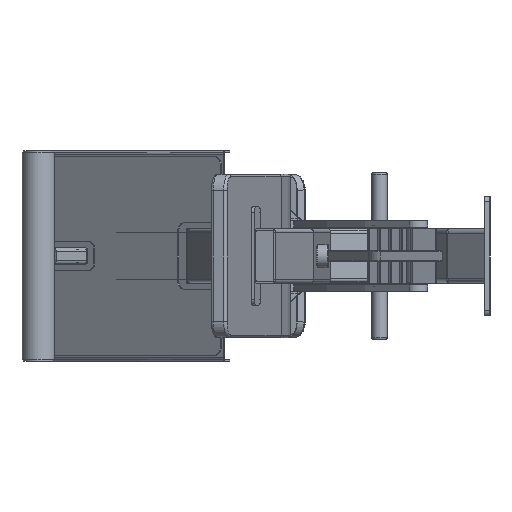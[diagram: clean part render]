
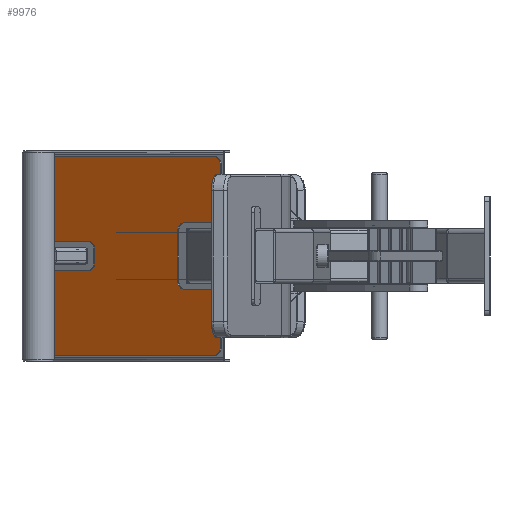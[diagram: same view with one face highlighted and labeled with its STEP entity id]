
A CAD part, left-side view. The second image highlights one B-rep face of the part: STEP entity #9976.
In plain terms, the highlighted planar face has unit normal (-0.777, 0.63, 0).
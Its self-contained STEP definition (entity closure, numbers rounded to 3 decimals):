
#640=PLANE('',#11069);
#1215=FACE_OUTER_BOUND('',#1859,.T.);
#1859=EDGE_LOOP('',(#8959,#8960,#8961,#8962,#8963,#8964,#8965,#8966,#8967,
#8968,#8969,#8970,#8971,#8972,#8973,#8974,#8975,#8976,#8977,#8978,#8979,
#8980,#8981,#8982));
#2730=LINE('',#18750,#3611);
#2731=LINE('',#18754,#3612);
#2732=LINE('',#18758,#3613);
#2733=LINE('',#18762,#3614);
#2734=LINE('',#18766,#3615);
#2735=LINE('',#18770,#3616);
#2736=LINE('',#18774,#3617);
#2737=LINE('',#18778,#3618);
#2738=LINE('',#18782,#3619);
#2739=LINE('',#18786,#3620);
#2740=LINE('',#18790,#3621);
#2741=LINE('',#18794,#3622);
#3611=VECTOR('',#13978,1000.);
#3612=VECTOR('',#13981,1000.);
#3613=VECTOR('',#13984,1000.);
#3614=VECTOR('',#13987,1000.);
#3615=VECTOR('',#13990,1000.);
#3616=VECTOR('',#13993,1000.);
#3617=VECTOR('',#13996,1000.);
#3618=VECTOR('',#13999,1000.);
#3619=VECTOR('',#14002,1000.);
#3620=VECTOR('',#14005,1000.);
#3621=VECTOR('',#14008,1000.);
#3622=VECTOR('',#14011,1000.);
#3995=CIRCLE('',#11070,15.);
#3996=CIRCLE('',#11071,15.);
#3997=CIRCLE('',#11072,15.);
#3998=CIRCLE('',#11073,15.);
#3999=CIRCLE('',#11074,15.);
#4000=CIRCLE('',#11075,15.);
#4001=CIRCLE('',#11076,15.);
#4002=CIRCLE('',#11077,15.);
#4003=CIRCLE('',#11078,15.);
#4004=CIRCLE('',#11079,15.);
#4005=CIRCLE('',#11080,15.);
#4006=CIRCLE('',#11081,15.);
#4863=VERTEX_POINT('',#18748);
#4864=VERTEX_POINT('',#18749);
#4865=VERTEX_POINT('',#18751);
#4866=VERTEX_POINT('',#18753);
#4867=VERTEX_POINT('',#18755);
#4868=VERTEX_POINT('',#18757);
#4869=VERTEX_POINT('',#18759);
#4870=VERTEX_POINT('',#18761);
#4871=VERTEX_POINT('',#18763);
#4872=VERTEX_POINT('',#18765);
#4873=VERTEX_POINT('',#18767);
#4874=VERTEX_POINT('',#18769);
#4875=VERTEX_POINT('',#18771);
#4876=VERTEX_POINT('',#18773);
#4877=VERTEX_POINT('',#18775);
#4878=VERTEX_POINT('',#18777);
#4879=VERTEX_POINT('',#18779);
#4880=VERTEX_POINT('',#18781);
#4881=VERTEX_POINT('',#18783);
#4882=VERTEX_POINT('',#18785);
#4883=VERTEX_POINT('',#18787);
#4884=VERTEX_POINT('',#18789);
#4885=VERTEX_POINT('',#18791);
#4886=VERTEX_POINT('',#18793);
#6241=EDGE_CURVE('',#4863,#4864,#2730,.T.);
#6242=EDGE_CURVE('',#4864,#4865,#3995,.T.);
#6243=EDGE_CURVE('',#4865,#4866,#2731,.T.);
#6244=EDGE_CURVE('',#4866,#4867,#3996,.T.);
#6245=EDGE_CURVE('',#4867,#4868,#2732,.T.);
#6246=EDGE_CURVE('',#4868,#4869,#3997,.T.);
#6247=EDGE_CURVE('',#4869,#4870,#2733,.T.);
#6248=EDGE_CURVE('',#4870,#4871,#3998,.T.);
#6249=EDGE_CURVE('',#4871,#4872,#2734,.T.);
#6250=EDGE_CURVE('',#4872,#4873,#3999,.T.);
#6251=EDGE_CURVE('',#4873,#4874,#2735,.T.);
#6252=EDGE_CURVE('',#4874,#4875,#4000,.T.);
#6253=EDGE_CURVE('',#4875,#4876,#2736,.T.);
#6254=EDGE_CURVE('',#4876,#4877,#4001,.T.);
#6255=EDGE_CURVE('',#4877,#4878,#2737,.T.);
#6256=EDGE_CURVE('',#4878,#4879,#4002,.T.);
#6257=EDGE_CURVE('',#4879,#4880,#2738,.T.);
#6258=EDGE_CURVE('',#4880,#4881,#4003,.T.);
#6259=EDGE_CURVE('',#4881,#4882,#2739,.T.);
#6260=EDGE_CURVE('',#4882,#4883,#4004,.T.);
#6261=EDGE_CURVE('',#4883,#4884,#2740,.T.);
#6262=EDGE_CURVE('',#4884,#4885,#4005,.T.);
#6263=EDGE_CURVE('',#4885,#4886,#2741,.T.);
#6264=EDGE_CURVE('',#4886,#4863,#4006,.T.);
#8959=ORIENTED_EDGE('',*,*,#6241,.T.);
#8960=ORIENTED_EDGE('',*,*,#6242,.T.);
#8961=ORIENTED_EDGE('',*,*,#6243,.T.);
#8962=ORIENTED_EDGE('',*,*,#6244,.T.);
#8963=ORIENTED_EDGE('',*,*,#6245,.T.);
#8964=ORIENTED_EDGE('',*,*,#6246,.T.);
#8965=ORIENTED_EDGE('',*,*,#6247,.T.);
#8966=ORIENTED_EDGE('',*,*,#6248,.T.);
#8967=ORIENTED_EDGE('',*,*,#6249,.T.);
#8968=ORIENTED_EDGE('',*,*,#6250,.T.);
#8969=ORIENTED_EDGE('',*,*,#6251,.T.);
#8970=ORIENTED_EDGE('',*,*,#6252,.T.);
#8971=ORIENTED_EDGE('',*,*,#6253,.T.);
#8972=ORIENTED_EDGE('',*,*,#6254,.T.);
#8973=ORIENTED_EDGE('',*,*,#6255,.T.);
#8974=ORIENTED_EDGE('',*,*,#6256,.T.);
#8975=ORIENTED_EDGE('',*,*,#6257,.T.);
#8976=ORIENTED_EDGE('',*,*,#6258,.T.);
#8977=ORIENTED_EDGE('',*,*,#6259,.T.);
#8978=ORIENTED_EDGE('',*,*,#6260,.T.);
#8979=ORIENTED_EDGE('',*,*,#6261,.T.);
#8980=ORIENTED_EDGE('',*,*,#6262,.T.);
#8981=ORIENTED_EDGE('',*,*,#6263,.T.);
#8982=ORIENTED_EDGE('',*,*,#6264,.T.);
#9976=ADVANCED_FACE('',(#1215),#640,.T.);
#11069=AXIS2_PLACEMENT_3D('',#18747,#13976,#13977);
#11070=AXIS2_PLACEMENT_3D('',#18752,#13979,#13980);
#11071=AXIS2_PLACEMENT_3D('',#18756,#13982,#13983);
#11072=AXIS2_PLACEMENT_3D('',#18760,#13985,#13986);
#11073=AXIS2_PLACEMENT_3D('',#18764,#13988,#13989);
#11074=AXIS2_PLACEMENT_3D('',#18768,#13991,#13992);
#11075=AXIS2_PLACEMENT_3D('',#18772,#13994,#13995);
#11076=AXIS2_PLACEMENT_3D('',#18776,#13997,#13998);
#11077=AXIS2_PLACEMENT_3D('',#18780,#14000,#14001);
#11078=AXIS2_PLACEMENT_3D('',#18784,#14003,#14004);
#11079=AXIS2_PLACEMENT_3D('',#18788,#14006,#14007);
#11080=AXIS2_PLACEMENT_3D('',#18792,#14009,#14010);
#11081=AXIS2_PLACEMENT_3D('',#18795,#14012,#14013);
#13976=DIRECTION('center_axis',(-0.777,0.63,0.));
#13977=DIRECTION('ref_axis',(0.,0.,
1.));
#13978=DIRECTION('',(-0.63,-0.777,0.));
#13979=DIRECTION('center_axis',(-0.777,0.63,0.));
#13980=DIRECTION('ref_axis',(0.,0.,
1.));
#13981=DIRECTION('',(0.,0.,1.));
#13982=DIRECTION('center_axis',(-0.777,0.63,0.));
#13983=DIRECTION('ref_axis',(0.,0.,
1.));
#13984=DIRECTION('',(0.63,0.777,0.));
#13985=DIRECTION('center_axis',(0.777,-0.63,0.));
#13986=DIRECTION('ref_axis',(0.,0.,
1.));
#13987=DIRECTION('',(0.,0.,1.));
#13988=DIRECTION('center_axis',(0.777,-0.63,0.));
#13989=DIRECTION('ref_axis',(0.,0.,
1.));
#13990=DIRECTION('',(-0.63,-0.777,0.));
#13991=DIRECTION('center_axis',(-0.777,0.63,0.));
#13992=DIRECTION('ref_axis',(0.,0.,
1.));
#13993=DIRECTION('',(0.,0.,1.));
#13994=DIRECTION('center_axis',(-0.777,0.63,0.));
#13995=DIRECTION('ref_axis',(0.,0.,
1.));
#13996=DIRECTION('',(0.63,0.777,0.));
#13997=DIRECTION('center_axis',(-0.777,0.63,0.));
#13998=DIRECTION('ref_axis',(0.,0.,
1.));
#13999=DIRECTION('',(0.,0.,-1.));
#14000=DIRECTION('center_axis',(-0.777,0.63,0.));
#14001=DIRECTION('ref_axis',(0.,0.,
1.));
#14002=DIRECTION('',(-0.63,-0.777,0.));
#14003=DIRECTION('center_axis',(0.777,-0.63,0.));
#14004=DIRECTION('ref_axis',(0.,0.,
1.));
#14005=DIRECTION('',(0.,0.,-1.));
#14006=DIRECTION('center_axis',(0.777,-0.63,0.));
#14007=DIRECTION('ref_axis',(0.,0.,
1.));
#14008=DIRECTION('',(0.63,0.777,0.));
#14009=DIRECTION('center_axis',(-0.777,0.63,0.));
#14010=DIRECTION('ref_axis',(0.,0.,
1.));
#14011=DIRECTION('',(0.,0.,-1.));
#14012=DIRECTION('center_axis',(-0.777,0.63,0.));
#14013=DIRECTION('ref_axis',(0.,0.,
1.));
#18747=CARTESIAN_POINT('Origin',(1183.738,728.137,829.559));
#18748=CARTESIAN_POINT('',(1437.463,1041.239,829.559));
#18749=CARTESIAN_POINT('',(1193.182,739.791,829.559));
#18750=CARTESIAN_POINT('',(1183.738,728.137,829.559));
#18751=CARTESIAN_POINT('',(1183.738,728.137,844.559));
#18752=CARTESIAN_POINT('Origin',(1193.182,739.791,844.559));
#18753=CARTESIAN_POINT('',(1183.738,728.137,936.559));
#18754=CARTESIAN_POINT('',(1183.738,728.137,951.559));
#18755=CARTESIAN_POINT('',(1193.182,739.791,951.559));
#18756=CARTESIAN_POINT('Origin',(1193.182,739.791,936.559));
#18757=CARTESIAN_POINT('',(1237.253,794.176,951.559));
#18758=CARTESIAN_POINT('',(1246.697,805.83,951.559));
#18759=CARTESIAN_POINT('',(1246.697,805.83,966.559));
#18760=CARTESIAN_POINT('Origin',(1237.253,794.176,966.559));
#18761=CARTESIAN_POINT('',(1246.697,805.83,1058.559));
#18762=CARTESIAN_POINT('',(1246.697,805.83,1073.559));
#18763=CARTESIAN_POINT('',(1237.253,794.176,1073.559));
#18764=CARTESIAN_POINT('Origin',(1237.253,794.176,1058.559));
#18765=CARTESIAN_POINT('',(1193.182,739.791,1073.559));
#18766=CARTESIAN_POINT('',(1246.697,805.83,1073.559));
#18767=CARTESIAN_POINT('',(1183.738,728.137,1088.559));
#18768=CARTESIAN_POINT('Origin',(1193.182,739.791,1088.559));
#18769=CARTESIAN_POINT('',(1183.738,728.137,1180.559));
#18770=CARTESIAN_POINT('',(1183.738,728.137,1073.559));
#18771=CARTESIAN_POINT('',(1193.182,739.791,1195.559));
#18772=CARTESIAN_POINT('Origin',(1193.182,739.791,1180.559));
#18773=CARTESIAN_POINT('',(1437.463,1041.239,1195.559));
#18774=CARTESIAN_POINT('',(1183.738,728.137,1195.559));
#18775=CARTESIAN_POINT('',(1446.907,1052.893,1180.559));
#18776=CARTESIAN_POINT('Origin',(1437.463,1041.239,1180.559));
#18777=CARTESIAN_POINT('',(1446.907,1052.893,1054.559));
#18778=CARTESIAN_POINT('',(1446.907,1052.893,1195.559));
#18779=CARTESIAN_POINT('',(1437.463,1041.239,1039.559));
#18780=CARTESIAN_POINT('Origin',(1437.463,1041.239,1054.559));
#18781=CARTESIAN_POINT('',(1380.8,971.315,1039.559));
#18782=CARTESIAN_POINT('',(1446.907,1052.893,1039.559));
#18783=CARTESIAN_POINT('',(1371.356,959.661,1024.559));
#18784=CARTESIAN_POINT('Origin',(1380.8,971.315,1024.559));
#18785=CARTESIAN_POINT('',(1371.356,959.661,1000.559));
#18786=CARTESIAN_POINT('',(1371.356,959.661,1039.559));
#18787=CARTESIAN_POINT('',(1380.8,971.315,985.559));
#18788=CARTESIAN_POINT('Origin',(1380.8,971.315,1000.559));
#18789=CARTESIAN_POINT('',(1437.463,1041.239,985.559));
#18790=CARTESIAN_POINT('',(1371.356,959.661,985.559));
#18791=CARTESIAN_POINT('',(1446.907,1052.893,970.559));
#18792=CARTESIAN_POINT('Origin',(1437.463,1041.239,970.559));
#18793=CARTESIAN_POINT('',(1446.907,1052.893,844.559));
#18794=CARTESIAN_POINT('',(1446.907,1052.893,829.559));
#18795=CARTESIAN_POINT('Origin',(1437.463,1041.239,844.559));
